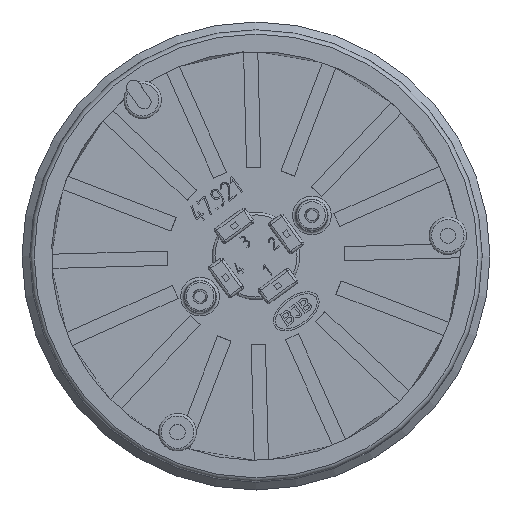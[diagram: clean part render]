
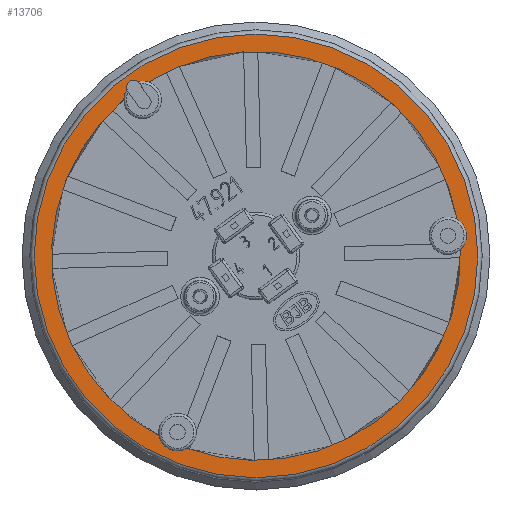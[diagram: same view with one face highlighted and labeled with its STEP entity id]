
A CAD part, top view. The second image highlights one B-rep face of the part: STEP entity #13706.
In plain terms, the highlighted planar face has unit normal (0, 0, 1).
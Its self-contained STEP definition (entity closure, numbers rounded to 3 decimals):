
#1035=CIRCLE('',#14635,35.65);
#1109=CIRCLE('',#14791,32.85);
#1133=CIRCLE('',#14833,32.85);
#1169=CIRCLE('',#14879,3.);
#1177=CIRCLE('',#14899,32.85);
#1190=CIRCLE('',#14920,1.1);
#1214=CIRCLE('',#14957,3.);
#1215=CIRCLE('',#14958,3.);
#1216=CIRCLE('',#14959,3.);
#2521=ORIENTED_EDGE('',*,*,#6035,.F.);
#2522=ORIENTED_EDGE('',*,*,#6484,.T.);
#2523=ORIENTED_EDGE('',*,*,#6591,.T.);
#2524=ORIENTED_EDGE('',*,*,#6504,.T.);
#2525=ORIENTED_EDGE('',*,*,#6592,.T.);
#2526=ORIENTED_EDGE('',*,*,#6275,.T.);
#2527=ORIENTED_EDGE('',*,*,#6593,.T.);
#2528=ORIENTED_EDGE('',*,*,#6313,.T.);
#2529=ORIENTED_EDGE('',*,*,#6465,.T.);
#6035=EDGE_CURVE('',#8116,#8116,#1035,.F.);
#6275=EDGE_CURVE('',#8355,#8354,#1109,.T.);
#6313=EDGE_CURVE('',#8383,#8382,#1133,.T.);
#6465=EDGE_CURVE('',#8382,#8512,#1169,.F.);
#6484=EDGE_CURVE('',#8512,#8523,#1177,.T.);
#6504=EDGE_CURVE('',#8533,#8531,#1190,.F.);
#6591=EDGE_CURVE('',#8523,#8533,#1214,.F.);
#6592=EDGE_CURVE('',#8531,#8355,#1215,.F.);
#6593=EDGE_CURVE('',#8354,#8383,#1216,.F.);
#8116=VERTEX_POINT('',#20771);
#8354=VERTEX_POINT('',#21385);
#8355=VERTEX_POINT('',#21387);
#8382=VERTEX_POINT('',#21457);
#8383=VERTEX_POINT('',#21459);
#8512=VERTEX_POINT('',#21870);
#8523=VERTEX_POINT('',#21902);
#8531=VERTEX_POINT('',#21941);
#8533=VERTEX_POINT('',#21944);
#11388=EDGE_LOOP('',(#2521));
#11389=EDGE_LOOP('',(#2522,#2523,#2524,#2525,#2526,#2527,#2528,#2529));
#12370=FACE_BOUND('',#11388,.T.);
#12371=FACE_BOUND('',#11389,.T.);
#13288=PLANE('',#14956);
#13706=ADVANCED_FACE('',(#12370,#12371),#13288,.T.);
#14635=AXIS2_PLACEMENT_3D('',#20770,#16438,#16439);
#14791=AXIS2_PLACEMENT_3D('',#21386,#16811,#16812);
#14833=AXIS2_PLACEMENT_3D('',#21458,#16897,#16898);
#14879=AXIS2_PLACEMENT_3D('',#21871,#17052,#17053);
#14899=AXIS2_PLACEMENT_3D('',#21903,#17093,#17094);
#14920=AXIS2_PLACEMENT_3D('',#21943,#17141,#17142);
#14956=AXIS2_PLACEMENT_3D('',#22174,#17261,#17262);
#14957=AXIS2_PLACEMENT_3D('',#22175,#17263,#17264);
#14958=AXIS2_PLACEMENT_3D('',#22176,#17265,#17266);
#14959=AXIS2_PLACEMENT_3D('',#22177,#17267,#17268);
#16438=DIRECTION('',(0.,0.,1.));
#16439=DIRECTION('',(1.,0.,0.));
#16811=DIRECTION('',(0.,0.,-1.));
#16812=DIRECTION('',(-1.,0.,0.));
#16897=DIRECTION('',(0.,0.,-1.));
#16898=DIRECTION('',(-1.,0.,0.));
#17052=DIRECTION('',(0.,0.,1.));
#17053=DIRECTION('',(1.,0.,0.));
#17093=DIRECTION('',(0.,0.,-1.));
#17094=DIRECTION('',(-1.,0.,0.));
#17141=DIRECTION('',(0.,0.,1.));
#17142=DIRECTION('',(1.,0.,0.));
#17261=DIRECTION('',(0.,0.,1.));
#17262=DIRECTION('',(1.,0.,0.));
#17263=DIRECTION('',(0.,0.,1.));
#17264=DIRECTION('',(1.,0.,0.));
#17265=DIRECTION('',(0.,0.,1.));
#17266=DIRECTION('',(1.,0.,0.));
#17267=DIRECTION('',(0.,0.,1.));
#17268=DIRECTION('',(1.,0.,0.));
#20770=CARTESIAN_POINT('',(0.,0.,8.75));
#20771=CARTESIAN_POINT('',(35.65,0.,8.75));
#21385=CARTESIAN_POINT('',(32.326,5.842,8.75));
#21386=CARTESIAN_POINT('',(0.,0.,8.75));
#21387=CARTESIAN_POINT('',(-17.286,27.934,8.75));
#21457=CARTESIAN_POINT('',(-11.107,-30.915,8.75));
#21458=CARTESIAN_POINT('',(0.,0.,8.75));
#21459=CARTESIAN_POINT('',(32.835,1.005,8.75));
#21870=CARTESIAN_POINT('',(-15.55,-28.937,8.75));
#21871=CARTESIAN_POINT('',(-12.614,-28.321,8.75));
#21902=CARTESIAN_POINT('',(-21.221,25.076,8.75));
#21903=CARTESIAN_POINT('',(0.,0.,8.75));
#21941=CARTESIAN_POINT('',(-19.002,27.98,8.75));
#21943=CARTESIAN_POINT('',(-19.718,27.144,8.75));
#21944=CARTESIAN_POINT('',(-20.734,26.722,8.75));
#22174=CARTESIAN_POINT('',(-35.35,0.,8.75));
#22175=CARTESIAN_POINT('',(-18.221,25.083,8.75));
#22176=CARTESIAN_POINT('',(-18.221,25.083,8.75));
#22177=CARTESIAN_POINT('',(30.833,3.24,8.75));
